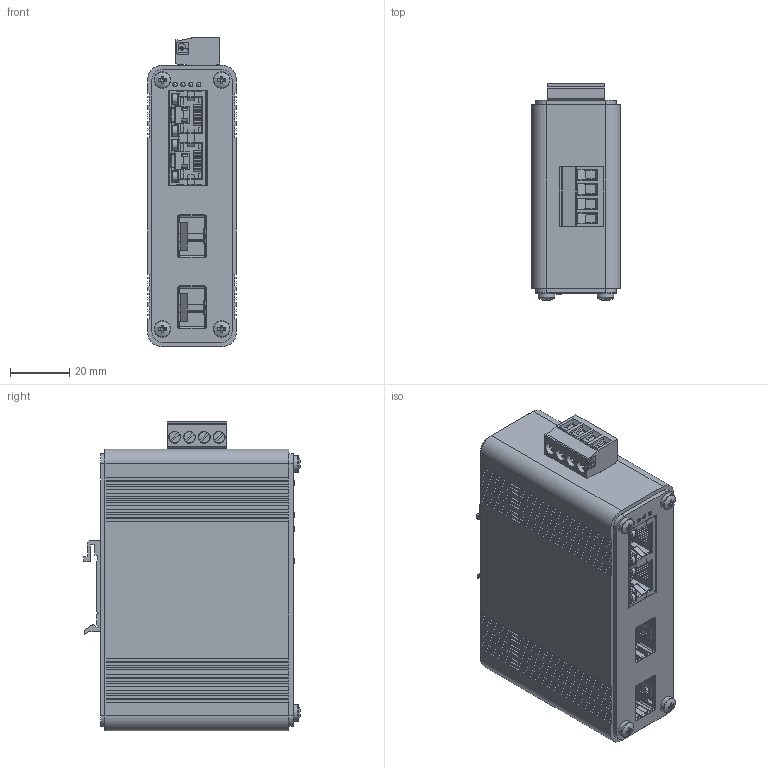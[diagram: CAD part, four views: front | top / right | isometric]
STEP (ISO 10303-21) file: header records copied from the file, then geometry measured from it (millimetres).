
FILE_DESCRIPTION(/* description */ (''),/* implementation_level */ '2;1');
FILE_NAME(/* name */ 'IM-UM-0202-0002 v1.step',/* time_stamp */ '2024-09-28T11:53:29+02:00',/* author */ (''),/* organization */ (''),/* preprocessor_version */ 'ST-DEVELOPER v20',/* originating_system */ 'Autodesk Translation Framework v13.20.0.188',/* authorisation */ '');
FILE_SCHEMA (('AUTOMOTIVE_DESIGN { 1 0 10303 214 3 1 1 }'));
Products named in the file (7): IM-UM-0202-0002; LED; SFP SLOT; ethernet 2 ports; POWER; Digitus_DN-651107_LAN-Switch 19.5mm; 3M Screw
Assembly tree (13 placements, depth 2):
  IM-UM-0202-0002
    LED  x4
    SFP SLOT  x2
    ethernet 2 ports
    POWER
    Digitus_DN-651107_LAN-Switch 19.5mm
    3M Screw  x4
Bounding box: 30 x 73.11 x 104.4 mm (x, y, z)
Volume: 30455 mm3; surface area: 63375.7 mm2
Topology: 66 solids, 66 shells, 3165 faces, 8786 edges, 5716 vertices
Faces by surface type: plane 2347, cylinder 731, cone 71, torus 8, bspline 4, sphere 4
Full cylindrical faces by diameter (mm): 0.434 x1, 0.55 x24, 0.609 x1, 1.4 x4, 1.5 x8, 2 x24, 2.08 x3, 3 x8, 3.202 x4, 3.783 x4, 4 x4, 5.6 x4
Entity records: 78007 total; most frequent: CARTESIAN_POINT 14186, ORIENTED_EDGE 13292, DIRECTION 12510, EDGE_CURVE 6646, LINE 5402, VECTOR 5402, VERTEX_POINT 4325, AXIS2_PLACEMENT_3D 3554
